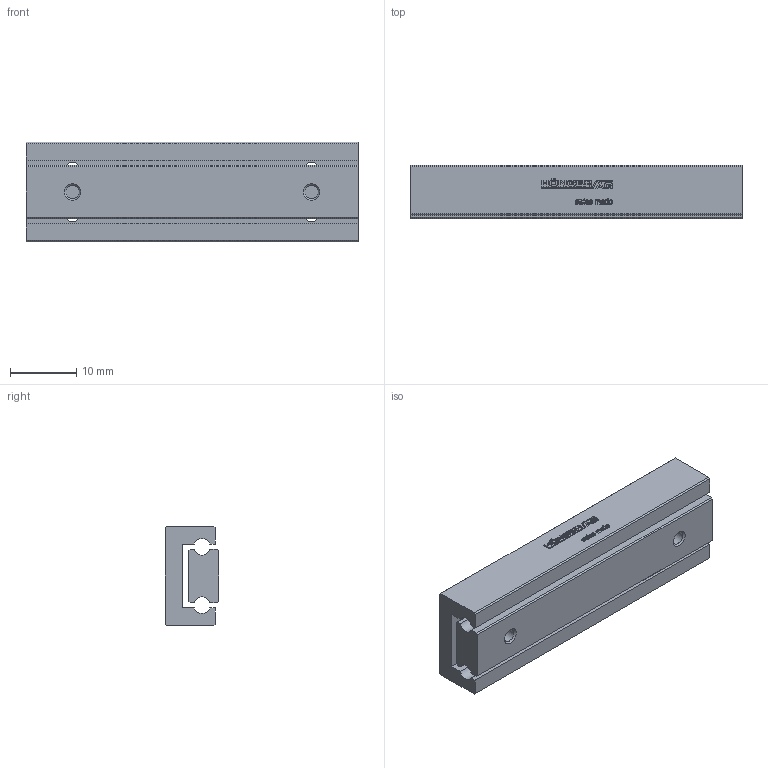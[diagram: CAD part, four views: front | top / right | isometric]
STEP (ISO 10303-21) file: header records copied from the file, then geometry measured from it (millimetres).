
FILE_DESCRIPTION(/* description */ ('STEP AP214'),/* implementation_level */ '2;1');
FILE_NAME(/* name */ 'NDN 2-50.40(0)',/* time_stamp */ '2025-04-16T17:12:36+02:00',/* author */ ('License CC BY-ND 4.0'),/* organization */ ('CADENAS'),/* preprocessor_version */ 'ST-DEVELOPER v19.3',/* originating_system */ 'PARTsolutions',/* authorisation */ ' ');
FILE_SCHEMA (('AUTOMOTIVE_DESIGN {1 0 10303 214 3 1 1}'));
Length unit declared in the file: millimetre
Products named in the file (3): NDN 2-50.40(0); NDN 2-50.40_1; NDN 2-50.40_2
Assembly tree (2 placements, depth 2):
  NDN 2-50.40(0)
    NDN 2-50.40_1
    NDN 2-50.40_2
Bounding box: 50 x 8 x 15 mm (x, y, z)
Volume: 4658.6 mm3; surface area: 4387.6 mm2
Topology: 2 solids, 2 shells, 511 faces, 1432 edges, 952 vertices
Faces by surface type: cylinder 302, plane 201, cone 8
Full cylindrical faces by diameter (mm): 2.013 x6
Entity records: 16723 total; most frequent: DIRECTION 3058, CARTESIAN_POINT 2884, ORIENTED_EDGE 2836, EDGE_CURVE 1418, AXIS2_PLACEMENT_3D 1126, VERTEX_POINT 952, LINE 806, VECTOR 806
